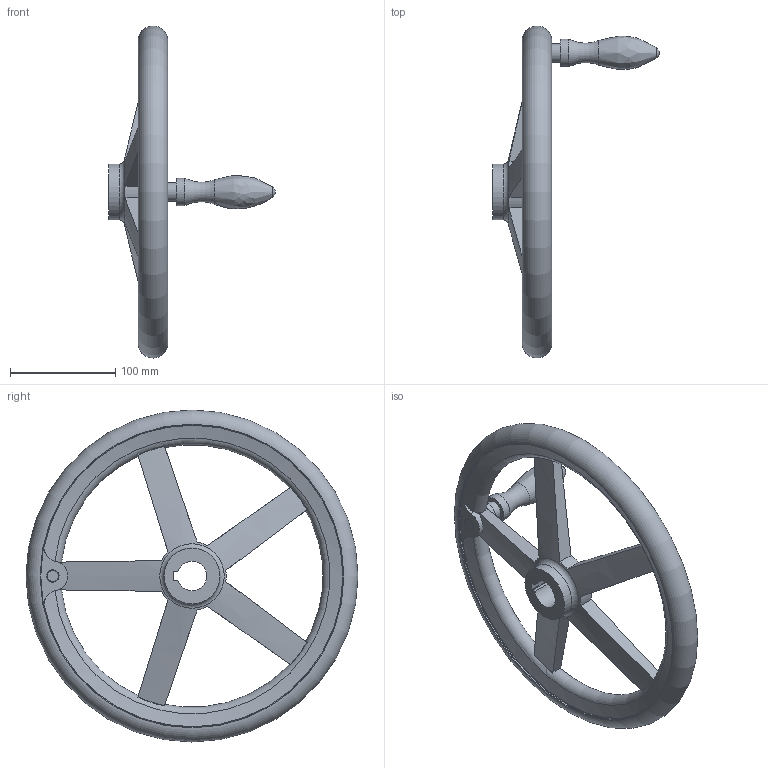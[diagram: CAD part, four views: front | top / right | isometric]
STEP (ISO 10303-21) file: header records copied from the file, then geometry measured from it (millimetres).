
FILE_DESCRIPTION( ( 'STEP AP203' ), '1' );
FILE_NAME( 'C:/Temp/Ganter_Step_05_03_2020/data/1_3/din_950/din_950_k/din_950_k_d/Handwheel DIN 950-GG-315-K28-D.stp', '2020-03-05T10:31:02', ( 'License CC BY-ND 4.0' ), ( 'CADENAS' ), ' ', 'PARTsolutions', ' ' );
FILE_SCHEMA( ( 'CONFIG_CONTROL_DESIGN' ) );
Length unit declared in the file: millimetre
Products named in the file (1): _Handwheel DIN 950-GG-315-K28-D
Bounding box: 158 x 315 x 315 mm (x, y, z)
Volume: 856441.8 mm3; surface area: 144450.8 mm2
Topology: 1 solids, 1 shells, 68 faces, 197 edges, 127 vertices
Faces by surface type: torus 21, cylinder 20, plane 19, cone 6, bspline 1, sphere 1
Full cylindrical faces by diameter (mm): 18 x1, 26 x1, 53 x2, 287 x2
Entity records: 2742 total; most frequent: CARTESIAN_POINT 1081, ORIENTED_EDGE 342, DIRECTION 308, EDGE_CURVE 171, AXIS2_PLACEMENT_3D 141, VERTEX_POINT 123, EDGE_LOOP 96, FACE_OUTER_BOUND 83
